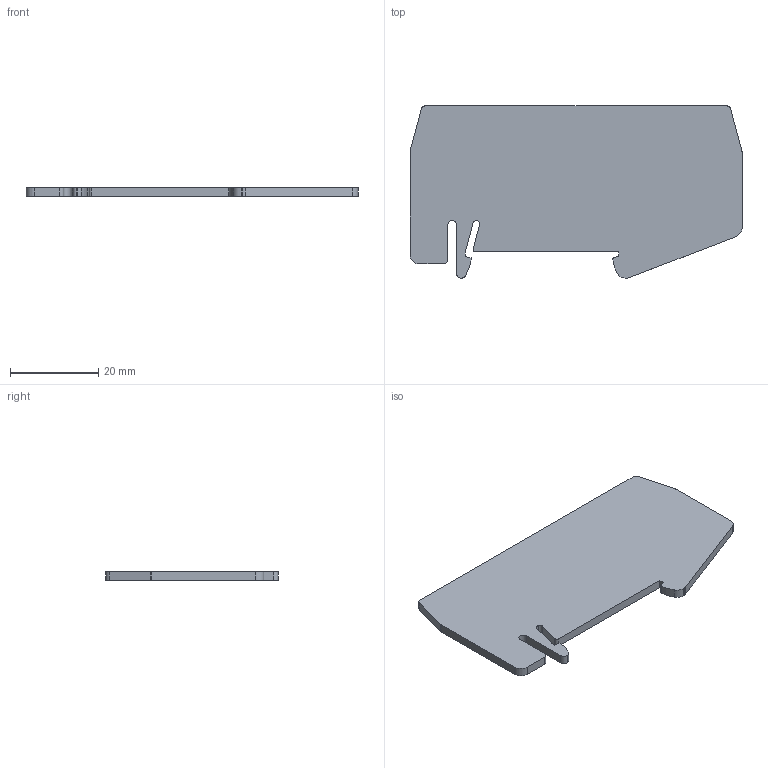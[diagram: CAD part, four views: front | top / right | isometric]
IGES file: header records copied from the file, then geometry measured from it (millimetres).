
Global section: file name: /EVTUSERS_B/clip-select/3030789/3030789_atp_st_twin_select; native system: SolidDesigner 12.01C  26-Mar-2004; preprocessor: OneSpace IGES_3D V1.1; author: Unknown; organization: Unknown; date: 20041001.140846; units: millimetre
Bounding box: 75.2 x 39 x 2 mm (x, y, z)
Volume: 5019.1 mm3; surface area: 5536.6 mm2
Topology: 1 solids, 1 shells, 43 faces, 123 edges, 82 vertices
Faces by surface type: bspline 43
